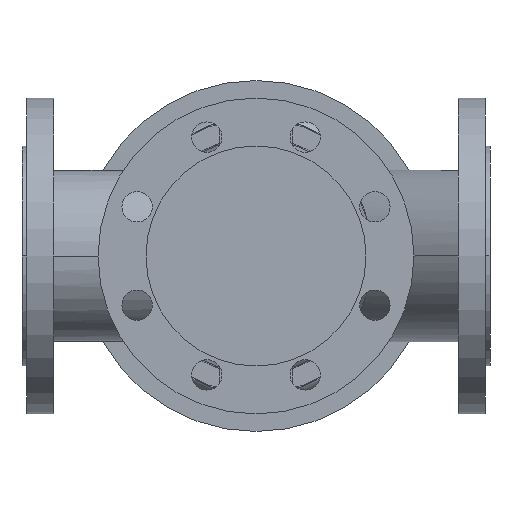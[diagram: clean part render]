
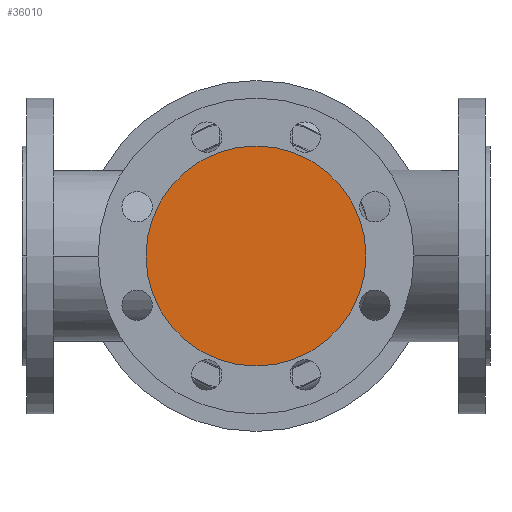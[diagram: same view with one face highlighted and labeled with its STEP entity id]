
A CAD part, front view. The second image highlights one B-rep face of the part: STEP entity #36010.
In plain terms, the highlighted planar face has unit normal (0, -1, 0).
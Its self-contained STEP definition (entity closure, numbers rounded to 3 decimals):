
#7550=CARTESIAN_POINT('',(294.,-200.,0.));
#7560=VERTEX_POINT('',#7550);
#7720=CARTESIAN_POINT('',(106.,-200.,0.));
#7730=VERTEX_POINT('',#7720);
#7760=CARTESIAN_POINT('',(200.,-200.,0.));
#7770=DIRECTION('',(0.,1.,0.));
#7780=DIRECTION('',(1.,0.,0.));
#7790=AXIS2_PLACEMENT_3D('',#7760,#7770,#7780);
#7800=CIRCLE('',#7790,94.);
#7810=EDGE_CURVE('',#7560,#7730,#7800,.T.);
#35910=CARTESIAN_POINT('',(247.,-200.,0.));
#35920=DIRECTION('',(0.,-1.,0.));
#35930=DIRECTION('',(-1.,0.,0.));
#35940=AXIS2_PLACEMENT_3D('',#35910,#35920,#35930);
#35950=PLANE('',#35940);
#35960=EDGE_CURVE('',#7730,#7560,#7800,.T.);
#35970=ORIENTED_EDGE('',*,*,#35960,.F.);
#35980=ORIENTED_EDGE('',*,*,#7810,.F.);
#35990=EDGE_LOOP('',(#35980,#35970));
#36000=FACE_OUTER_BOUND('',#35990,.T.);
#36010=ADVANCED_FACE('',(#36000),#35950,.T.);
